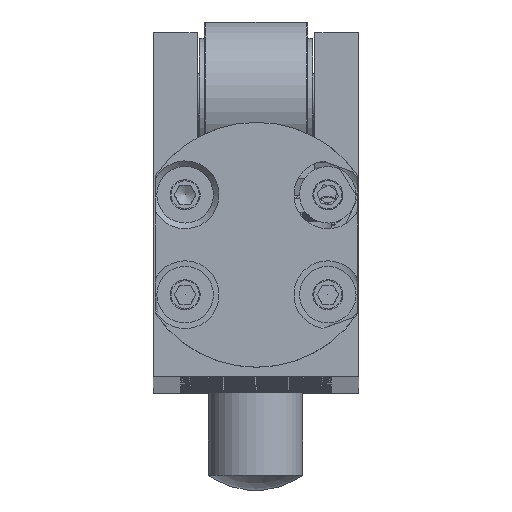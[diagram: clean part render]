
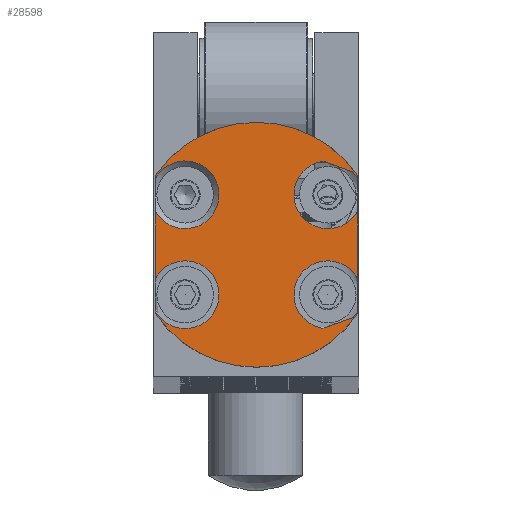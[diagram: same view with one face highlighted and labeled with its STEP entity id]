
A CAD part, top view. The second image highlights one B-rep face of the part: STEP entity #28598.
In plain terms, the highlighted planar face has unit normal (0, 0, 1).
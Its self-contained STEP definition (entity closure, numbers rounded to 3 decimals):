
#1234=LINE('',#52822,#2265);
#1235=LINE('',#52825,#2266);
#1236=LINE('',#52829,#2267);
#1237=LINE('',#52833,#2268);
#1238=LINE('',#52837,#2269);
#1239=LINE('',#52841,#2270);
#1240=LINE('',#52845,#2271);
#1241=LINE('',#52848,#2272);
#2265=VECTOR('',#40425,10.);
#2266=VECTOR('',#40428,10.);
#2267=VECTOR('',#40431,10.);
#2268=VECTOR('',#40434,10.);
#2269=VECTOR('',#40437,10.);
#2270=VECTOR('',#40440,10.);
#2271=VECTOR('',#40443,10.);
#2272=VECTOR('',#40446,10.);
#5025=FACE_OUTER_BOUND('',#6744,.T.);
#6744=EDGE_LOOP('',(#23715,#23716,#23717,#23718,#23719,#23720,#23721,#23722,
#23723,#23724,#23725,#23726,#23727,#23728,#23729,#23730));
#9269=CIRCLE('',#32184,3.6);
#9272=CIRCLE('',#32187,3.6);
#9273=CIRCLE('',#32191,3.6);
#9274=CIRCLE('',#32192,3.6);
#9275=CIRCLE('',#32193,13.);
#9276=CIRCLE('',#32194,3.6);
#9277=CIRCLE('',#32195,3.6);
#9278=CIRCLE('',#32196,13.);
#12281=VERTEX_POINT('',#52798);
#12282=VERTEX_POINT('',#52799);
#12283=VERTEX_POINT('',#52803);
#12287=VERTEX_POINT('',#52814);
#12288=VERTEX_POINT('',#52824);
#12289=VERTEX_POINT('',#52826);
#12290=VERTEX_POINT('',#52828);
#12291=VERTEX_POINT('',#52830);
#12292=VERTEX_POINT('',#52832);
#12293=VERTEX_POINT('',#52834);
#12294=VERTEX_POINT('',#52836);
#12295=VERTEX_POINT('',#52838);
#12296=VERTEX_POINT('',#52840);
#12297=VERTEX_POINT('',#52842);
#12298=VERTEX_POINT('',#52844);
#12299=VERTEX_POINT('',#52846);
#16262=EDGE_CURVE('',#12283,#12281,#9269,.T.);
#16268=EDGE_CURVE('',#12282,#12287,#9272,.T.);
#16270=EDGE_CURVE('',#12287,#12283,#1234,.T.);
#16271=EDGE_CURVE('',#12281,#12288,#1235,.T.);
#16272=EDGE_CURVE('',#12288,#12289,#9273,.T.);
#16273=EDGE_CURVE('',#12289,#12290,#1236,.T.);
#16274=EDGE_CURVE('',#12290,#12291,#9274,.T.);
#16275=EDGE_CURVE('',#12291,#12292,#1237,.T.);
#16276=EDGE_CURVE('',#12293,#12292,#9275,.T.);
#16277=EDGE_CURVE('',#12293,#12294,#1238,.T.);
#16278=EDGE_CURVE('',#12294,#12295,#9276,.T.);
#16279=EDGE_CURVE('',#12295,#12296,#1239,.T.);
#16280=EDGE_CURVE('',#12296,#12297,#9277,.T.);
#16281=EDGE_CURVE('',#12297,#12298,#1240,.T.);
#16282=EDGE_CURVE('',#12299,#12298,#9278,.T.);
#16283=EDGE_CURVE('',#12299,#12282,#1241,.T.);
#23715=ORIENTED_EDGE('',*,*,#16268,.T.);
#23716=ORIENTED_EDGE('',*,*,#16270,.T.);
#23717=ORIENTED_EDGE('',*,*,#16262,.T.);
#23718=ORIENTED_EDGE('',*,*,#16271,.T.);
#23719=ORIENTED_EDGE('',*,*,#16272,.T.);
#23720=ORIENTED_EDGE('',*,*,#16273,.T.);
#23721=ORIENTED_EDGE('',*,*,#16274,.T.);
#23722=ORIENTED_EDGE('',*,*,#16275,.T.);
#23723=ORIENTED_EDGE('',*,*,#16276,.F.);
#23724=ORIENTED_EDGE('',*,*,#16277,.T.);
#23725=ORIENTED_EDGE('',*,*,#16278,.T.);
#23726=ORIENTED_EDGE('',*,*,#16279,.T.);
#23727=ORIENTED_EDGE('',*,*,#16280,.T.);
#23728=ORIENTED_EDGE('',*,*,#16281,.T.);
#23729=ORIENTED_EDGE('',*,*,#16282,.F.);
#23730=ORIENTED_EDGE('',*,*,#16283,.T.);
#26136=PLANE('',#32190);
#28598=ADVANCED_FACE('',(#5025),#26136,.T.);
#32184=AXIS2_PLACEMENT_3D('',#52804,#40411,#40412);
#32187=AXIS2_PLACEMENT_3D('',#52818,#40418,#40419);
#32190=AXIS2_PLACEMENT_3D('',#52823,#40426,#40427);
#32191=AXIS2_PLACEMENT_3D('',#52827,#40429,#40430);
#32192=AXIS2_PLACEMENT_3D('',#52831,#40432,#40433);
#32193=AXIS2_PLACEMENT_3D('',#52835,#40435,#40436);
#32194=AXIS2_PLACEMENT_3D('',#52839,#40438,#40439);
#32195=AXIS2_PLACEMENT_3D('',#52843,#40441,#40442);
#32196=AXIS2_PLACEMENT_3D('',#52847,#40444,#40445);
#40411=DIRECTION('center_axis',(0.,0.,
-1.));
#40412=DIRECTION('ref_axis',(-0.342,0.94,0.));
#40418=DIRECTION('center_axis',(0.,0.,
-1.));
#40419=DIRECTION('ref_axis',(-0.342,0.94,0.));
#40425=DIRECTION('',(-0.94,-0.342,0.));
#40426=DIRECTION('center_axis',(0.,0.,
1.));
#40427=DIRECTION('ref_axis',(1.,0.,0.));
#40428=DIRECTION('',(0.,1.,0.));
#40429=DIRECTION('center_axis',(0.,0.,
-1.));
#40430=DIRECTION('ref_axis',(-0.342,-0.94,0.));
#40431=DIRECTION('',(0.94,-0.342,0.));
#40432=DIRECTION('center_axis',(0.,0.,
-1.));
#40433=DIRECTION('ref_axis',(-0.342,-0.94,0.));
#40434=DIRECTION('',(0.,1.,0.));
#40435=DIRECTION('center_axis',(0.,0.,
-1.));
#40436=DIRECTION('ref_axis',(0.,1.,0.));
#40437=DIRECTION('',(0.,-1.,0.));
#40438=DIRECTION('center_axis',(0.,0.,
-1.));
#40439=DIRECTION('ref_axis',(1.,0.,0.));
#40440=DIRECTION('',(0.,-1.,0.));
#40441=DIRECTION('center_axis',(0.,0.,
-1.));
#40442=DIRECTION('ref_axis',(1.,0.,0.));
#40443=DIRECTION('',(0.,-1.,0.));
#40444=DIRECTION('center_axis',(0.,0.,
-1.));
#40445=DIRECTION('ref_axis',(0.,1.,0.));
#40446=DIRECTION('',(0.,1.,0.));
#52798=CARTESIAN_POINT('',(10.8,-7.855,506.));
#52799=CARTESIAN_POINT('',(10.8,-11.256,506.));
#52803=CARTESIAN_POINT('',(7.114,-13.119,506.));
#52804=CARTESIAN_POINT('Origin',(7.627,-9.556,506.));
#52814=CARTESIAN_POINT('',(10.311,-11.955,506.));
#52818=CARTESIAN_POINT('Origin',(7.627,-9.556,506.));
#52822=CARTESIAN_POINT('',(8.206,-12.721,506.));
#52823=CARTESIAN_POINT('Origin',(0.05,2.25,506.));
#52824=CARTESIAN_POINT('',(10.8,-0.645,506.));
#52825=CARTESIAN_POINT('',(10.8,-4.655,506.));
#52826=CARTESIAN_POINT('',(7.114,4.619,506.));
#52827=CARTESIAN_POINT('Origin',(7.627,1.056,506.));
#52828=CARTESIAN_POINT('',(10.311,3.455,506.));
#52829=CARTESIAN_POINT('',(6.117,4.982,506.));
#52830=CARTESIAN_POINT('',(10.8,2.756,506.));
#52831=CARTESIAN_POINT('Origin',(7.627,1.056,506.));
#52832=CARTESIAN_POINT('',(10.8,3.06,506.));
#52833=CARTESIAN_POINT('',(10.8,-4.655,506.));
#52834=CARTESIAN_POINT('',(-10.7,3.06,506.));
#52835=CARTESIAN_POINT('Origin',(0.05,-4.25,506.));
#52836=CARTESIAN_POINT('',(-10.7,2.756,506.));
#52837=CARTESIAN_POINT('',(-10.7,2.655,506.));
#52838=CARTESIAN_POINT('',(-10.7,-0.645,506.));
#52839=CARTESIAN_POINT('Origin',(-7.527,1.056,506.));
#52840=CARTESIAN_POINT('',(-10.7,-7.855,506.));
#52841=CARTESIAN_POINT('',(-10.7,2.655,506.));
#52842=CARTESIAN_POINT('',(-10.7,-11.256,506.));
#52843=CARTESIAN_POINT('Origin',(-7.527,-9.556,506.));
#52844=CARTESIAN_POINT('',(-10.7,-11.56,506.));
#52845=CARTESIAN_POINT('',(-10.7,2.655,506.));
#52846=CARTESIAN_POINT('',(10.8,-11.56,506.));
#52847=CARTESIAN_POINT('Origin',(0.05,-4.25,506.));
#52848=CARTESIAN_POINT('',(10.8,-4.655,506.));
